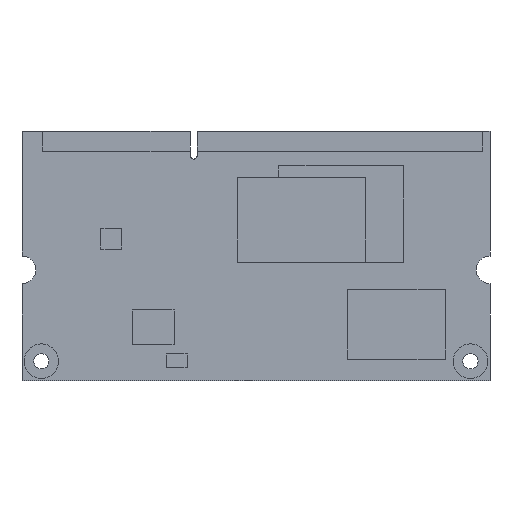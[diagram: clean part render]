
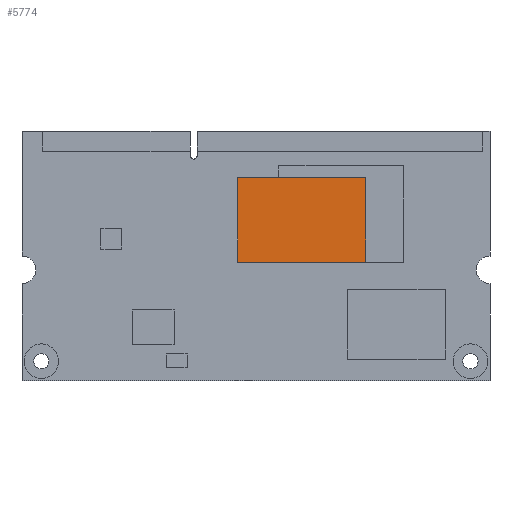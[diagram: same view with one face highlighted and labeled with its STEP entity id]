
A CAD part, front view. The second image highlights one B-rep face of the part: STEP entity #5774.
In plain terms, the highlighted planar face has unit normal (0, -1, 0).
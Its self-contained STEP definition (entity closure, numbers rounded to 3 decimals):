
#876 = VECTOR ( 'NONE', #2500, 1000. ) ;
#877 = VECTOR ( 'NONE', #1256, 1000. ) ;
#879 = VECTOR ( 'NONE', #1265, 1000. ) ;
#881 = VECTOR ( 'NONE', #1262, 1000. ) ;
#1151 = EDGE_CURVE ( 'NONE', #1772, #1769, #2496, .T. ) ;
#1154 = EDGE_CURVE ( 'NONE', #1779, #1770, #2476, .T. ) ;
#1156 = EDGE_CURVE ( 'NONE', #1769, #1779, #1260, .T. ) ;
#1157 = EDGE_CURVE ( 'NONE', #1770, #1772, #1263, .T. ) ;
#1255 = CARTESIAN_POINT ( 'NONE',  ( -2.636, -1.1, -0.885 ) ) ;
#1256 = DIRECTION ( 'NONE',  ( 1., 0., 0. ) ) ;
#1260 = LINE ( 'NONE', #1261, #881 ) ;
#1261 = CARTESIAN_POINT ( 'NONE',  ( -2.636, -1.1, 11.316 ) ) ;
#1262 = DIRECTION ( 'NONE',  ( 0., 0., -1. ) ) ;
#1263 = LINE ( 'NONE', #1264, #879 ) ;
#1264 = CARTESIAN_POINT ( 'NONE',  ( 15.865, -1.1, -0.885 ) ) ;
#1265 = DIRECTION ( 'NONE',  ( 0., 0., 1. ) ) ;
#1769 = VERTEX_POINT ( 'NONE', #3838 ) ;
#1770 = VERTEX_POINT ( 'NONE', #3839 ) ;
#1772 = VERTEX_POINT ( 'NONE', #3841 ) ;
#1779 = VERTEX_POINT ( 'NONE', #3848 ) ;
#2476 = LINE ( 'NONE', #1255, #877 ) ;
#2496 = LINE ( 'NONE', #2498, #876 ) ;
#2498 = CARTESIAN_POINT ( 'NONE',  ( 15.865, -1.1, 11.316 ) ) ;
#2500 = DIRECTION ( 'NONE',  ( -1., 0., 0. ) ) ;
#2693 = EDGE_LOOP ( 'NONE', ( #4065, #4066, #4063, #4064 ) ) ;
#3838 = CARTESIAN_POINT ( 'NONE',  ( -2.636, -1.1, 11.316 ) ) ;
#3839 = CARTESIAN_POINT ( 'NONE',  ( 15.865, -1.1, -0.885 ) ) ;
#3841 = CARTESIAN_POINT ( 'NONE',  ( 15.865, -1.1, 11.316 ) ) ;
#3848 = CARTESIAN_POINT ( 'NONE',  ( -2.636, -1.1, -0.885 ) ) ;
#4063 = ORIENTED_EDGE ( 'NONE', *, *, #1154, .T. ) ;
#4064 = ORIENTED_EDGE ( 'NONE', *, *, #1157, .T. ) ;
#4065 = ORIENTED_EDGE ( 'NONE', *, *, #1151, .T. ) ;
#4066 = ORIENTED_EDGE ( 'NONE', *, *, #1156, .T. ) ;
#5544 = AXIS2_PLACEMENT_3D ( 'NONE', #5640, #5641, #5642 ) ;
#5615 = PLANE ( 'NONE',  #5544 ) ;
#5630 = FACE_OUTER_BOUND ( 'NONE', #2693, .T. ) ;
#5640 = CARTESIAN_POINT ( 'NONE',  ( -2.636, -1.1, 11.316 ) ) ;
#5641 = DIRECTION ( 'NONE',  ( 0., -1., 0. ) ) ;
#5642 = DIRECTION ( 'NONE',  ( 0., 0., -1. ) ) ;
#5774 = ADVANCED_FACE ( 'NONE', ( #5630 ), #5615, .T. ) ;
